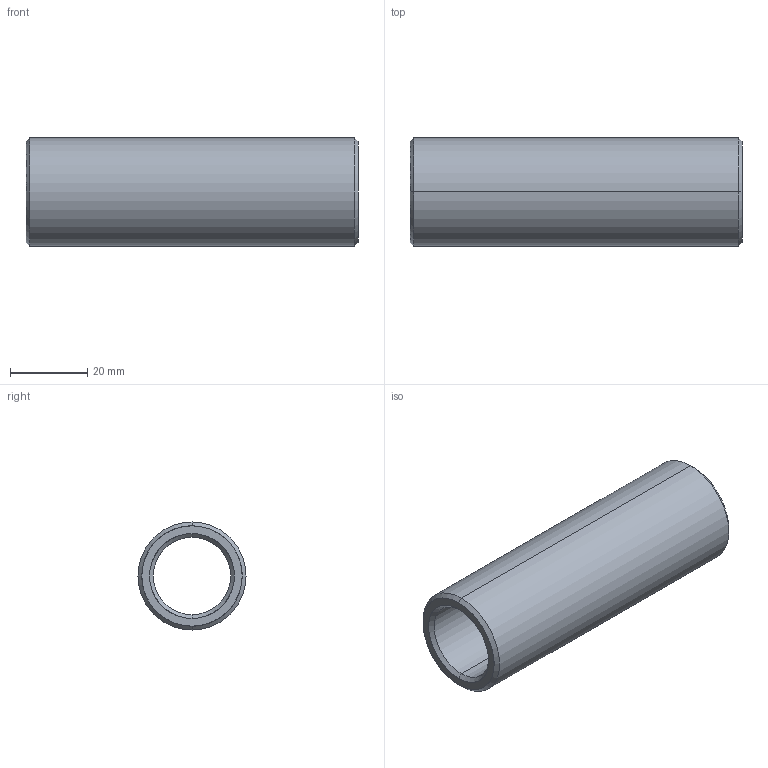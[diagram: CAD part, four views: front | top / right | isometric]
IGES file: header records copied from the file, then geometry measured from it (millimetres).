
Start section: START RECORD GO HERE.
Global section: file name: 352-20X86.igs; native system: DASSAULT SYSTEMES CATIA V5 R20 - www.3ds.com; preprocessor: CATIA Version 5 Release 20 ; author: Utente; organization: NB04-ASUS; date: 20210410.113143; units: millimetre
Bounding box: 86 x 28 x 28 mm (x, y, z)
Surface area: 13404 mm2 (no closed solid volume)
Topology: 0 solids, 0 shells, 14 faces, 88 edges, 88 vertices
Faces by surface type: revolution 12, plane 2
